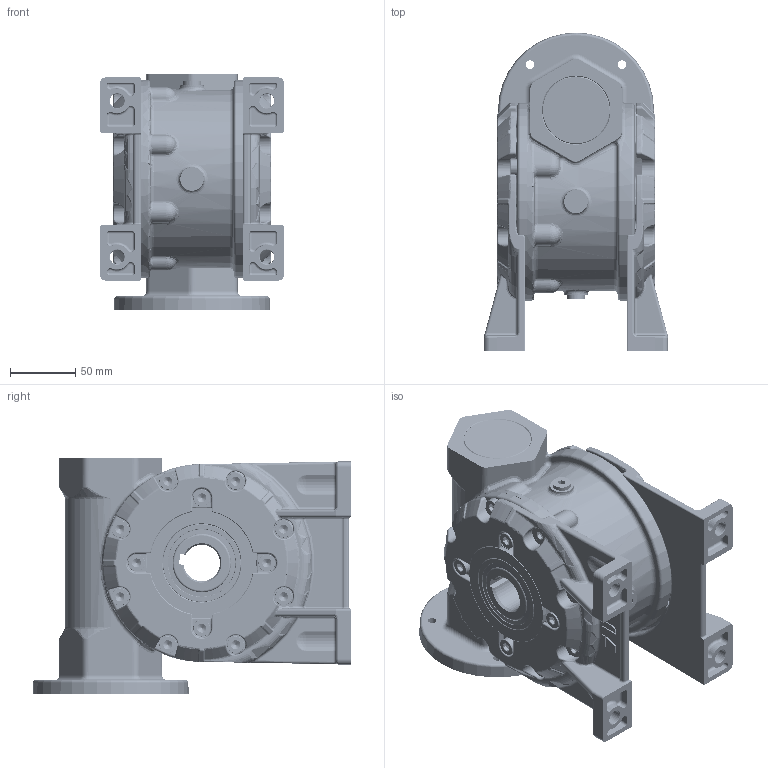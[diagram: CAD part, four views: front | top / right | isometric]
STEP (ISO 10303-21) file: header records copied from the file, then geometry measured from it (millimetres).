
FILE_DESCRIPTION (( 'STEP AP203' ), '1' );
FILE_NAME ('Sestava MRT70A-A.STEP', '2005-08-15T10:37:40', ( '' ), ( '' ), 'SwSTEP 2.0', 'SolidWorks 2004146', '' );
FILE_SCHEMA (( 'CONFIG_CONTROL_DESIGN' ));
Products named in the file (1): Sestava MRT70A-A
Bounding box: 141 x 245 x 182 mm (x, y, z)
Volume: 1778461.9 mm3; surface area: 560248.4 mm2
Topology: 40 solids, 40 shells, 5152 faces, 12554 edges, 7129 vertices
Faces by surface type: cylinder 1181, torus 1114, bspline 1089, plane 897, cone 681, sphere 190
Entity records: 563880 total; most frequent: CARTESIAN_POINT 451558, ORIENTED_EDGE 24232, DIRECTION 22910, EDGE_CURVE 12116, AXIS2_PLACEMENT_3D 10110, VERTEX_POINT 7047, CIRCLE 6046, EDGE_LOOP 5419
